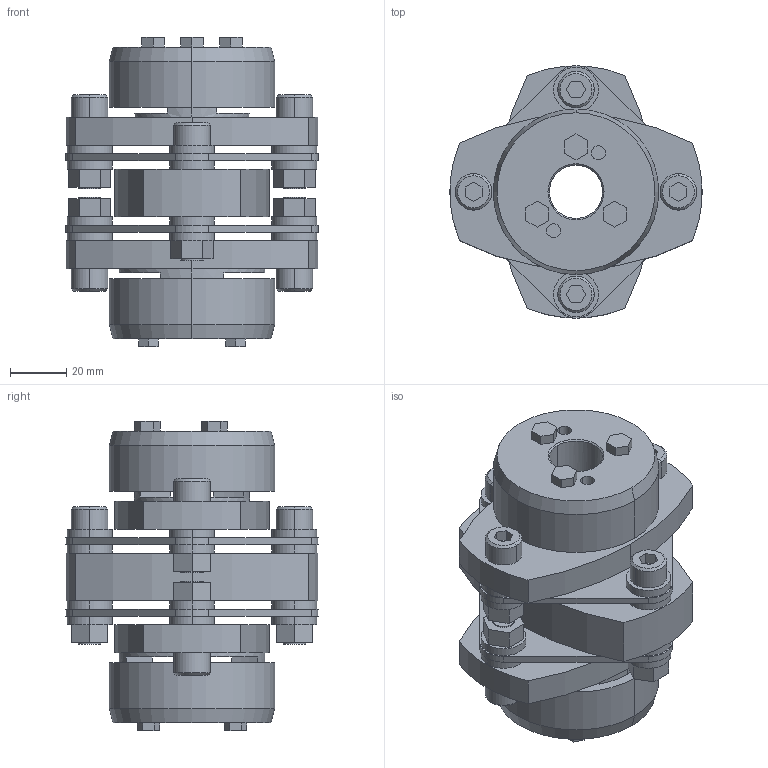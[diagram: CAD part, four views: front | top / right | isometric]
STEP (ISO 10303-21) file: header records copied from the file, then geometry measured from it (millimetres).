
FILE_DESCRIPTION((''),'2;1');
FILE_NAME('LCD-90T7-19×32.stp','2011-09-12T08:26:21',(''),(''),'AutoCAD STEP 2000i','AutoCAD 2000i',', , ');
FILE_SCHEMA(('CONFIG_CONTROL_DESIGN'));
Length unit declared in the file: millimetre
Products named in the file (8): LCD-90T7-19×32; 忣兜1; LC90T7-T032; LC90T7-T030; LC90T7-T025; LC90T7-T019-1; LC90T7-T019; LCD90-ITA
Assembly tree (7 placements, depth 2):
  LCD-90T7-19×32
    忣兜1
    LC90T7-T032
    LC90T7-T030
    LC90T7-T025
    LC90T7-T019-1
    LC90T7-T019
    LCD90-ITA
Bounding box: 90 x 89.94 x 110.3 mm (x, y, z)
Volume: 263063.6 mm3; surface area: 73053 mm2
Topology: 1 solids, 1 shells, 327 faces, 798 edges, 524 vertices
Faces by surface type: plane 183, cylinder 120, cone 24
Entity records: 9885 total; most frequent: DIRECTION 1748, CARTESIAN_POINT 1657, ORIENTED_EDGE 1596, EDGE_CURVE 798, AXIS2_PLACEMENT_3D 615, VERTEX_POINT 524, VECTOR 518, LINE 518
